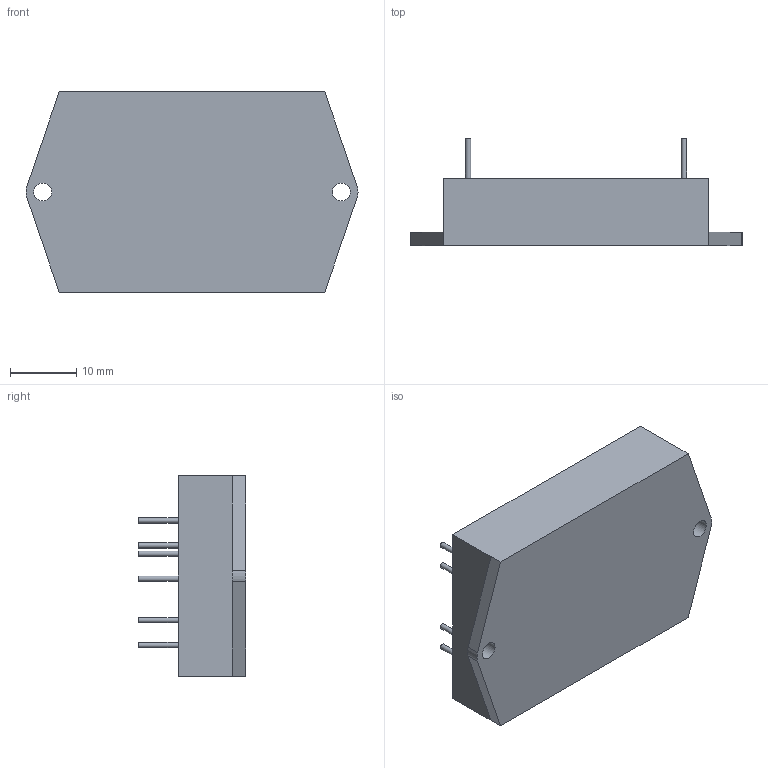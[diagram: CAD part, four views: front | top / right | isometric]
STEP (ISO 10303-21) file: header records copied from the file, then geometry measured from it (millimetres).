
FILE_DESCRIPTION((''),'2;1');
FILE_NAME('C:\Users\ABaranov\Desktop\Модули МДМ 3Д\001 ТУ\МДМ7,5(10)-1УП.stp','2016-02-19T10:17:44',('ABaranov'),(''),'Autodesk Inventor 2013','Autodesk Inventor 2013','');
FILE_SCHEMA(('AUTOMOTIVE_DESIGN { 1 0 10303 214 1 1 1 1 }'));
Length unit declared in the file: millimetre
Products named in the file (1): МДМ7,5(10)-1УП
Bounding box: 50 x 16.15 x 30.2 mm (x, y, z)
Volume: 12569.6 mm3; surface area: 4281.4 mm2
Topology: 8 solids, 8 shells, 37 faces, 59 edges, 38 vertices
Faces by surface type: plane 26, cylinder 11
Full cylindrical faces by diameter (mm): 0.8 x7, 2.7 x2
Entity records: 867 total; most frequent: DIRECTION 148, CARTESIAN_POINT 126, ORIENTED_EDGE 100, AXIS2_PLACEMENT_3D 60, EDGE_CURVE 50, EDGE_LOOP 50, VERTEX_POINT 38, FACE_OUTER_BOUND 37
